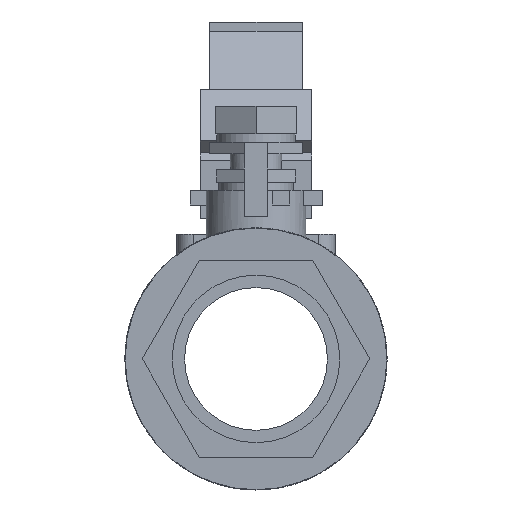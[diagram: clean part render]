
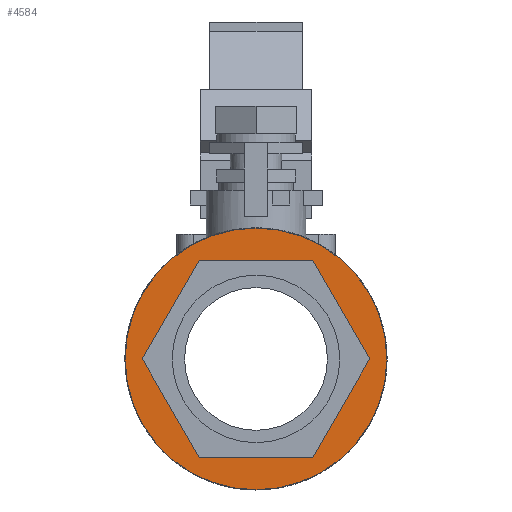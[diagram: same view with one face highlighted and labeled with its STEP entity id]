
A CAD part, left-side view. The second image highlights one B-rep face of the part: STEP entity #4584.
In plain terms, the highlighted planar face has unit normal (-1, 0, 0).
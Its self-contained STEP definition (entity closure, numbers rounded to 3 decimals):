
#4029 = EDGE_CURVE('',#4030,#4032,#4034,.T.);
#4030 = VERTEX_POINT('',#4031);
#4031 = CARTESIAN_POINT('',(0.655,-0.597,1.034));
#4032 = VERTEX_POINT('',#4033);
#4033 = CARTESIAN_POINT('',(0.655,-1.194,0.));
#4034 = SURFACE_CURVE('',#4035,(#4039,#4051),.PCURVE_S1.);
#4035 = LINE('',#4036,#4037);
#4036 = CARTESIAN_POINT('',(0.655,-0.895,0.517));
#4037 = VECTOR('',#4038,1.);
#4038 = DIRECTION('',(0.,-0.5,-0.866));
#4039 = PCURVE('',#4040,#4045);
#4040 = PLANE('',#4041);
#4041 = AXIS2_PLACEMENT_3D('',#4042,#4043,#4044);
#4042 = CARTESIAN_POINT('',(0.,-0.895,0.517));
#4043 = DIRECTION('',(0.,-0.866,0.5));
#4044 = DIRECTION('',(0.,-0.5,-0.866));
#4045 = DEFINITIONAL_REPRESENTATION('',(#4046),#4050);
#4046 = LINE('',#4047,#4048);
#4047 = CARTESIAN_POINT('',(0.,0.655));
#4048 = VECTOR('',#4049,1.);
#4049 = DIRECTION('',(1.,0.));
#4050 = ( GEOMETRIC_REPRESENTATION_CONTEXT(2) 
PARAMETRIC_REPRESENTATION_CONTEXT() REPRESENTATION_CONTEXT('2D SPACE',''
  ) );
#4051 = PCURVE('',#4052,#4057);
#4052 = PLANE('',#4053);
#4053 = AXIS2_PLACEMENT_3D('',#4054,#4055,#4056);
#4054 = CARTESIAN_POINT('',(0.655,0.,
    0.));
#4055 = DIRECTION('',(-1.,0.,0.));
#4056 = DIRECTION('',(0.,0.,1.));
#4057 = DEFINITIONAL_REPRESENTATION('',(#4058),#4062);
#4058 = LINE('',#4059,#4060);
#4059 = CARTESIAN_POINT('',(0.517,-0.895));
#4060 = VECTOR('',#4061,1.);
#4061 = DIRECTION('',(-0.866,-0.5));
#4062 = ( GEOMETRIC_REPRESENTATION_CONTEXT(2) 
PARAMETRIC_REPRESENTATION_CONTEXT() REPRESENTATION_CONTEXT('2D SPACE',''
  ) );
#4080 = PLANE('',#4081);
#4081 = AXIS2_PLACEMENT_3D('',#4082,#4083,#4084);
#4082 = CARTESIAN_POINT('',(0.,0.,1.034));
#4083 = DIRECTION('',(0.,0.,1.));
#4084 = DIRECTION('',(0.,-1.,0.));
#4129 = PLANE('',#4130);
#4130 = AXIS2_PLACEMENT_3D('',#4131,#4132,#4133);
#4131 = CARTESIAN_POINT('',(0.,-0.895,-0.517));
#4132 = DIRECTION('',(0.,-0.866,-0.5));
#4133 = DIRECTION('',(0.,0.5,-0.866));
#4144 = EDGE_CURVE('',#4145,#4030,#4147,.T.);
#4145 = VERTEX_POINT('',#4146);
#4146 = CARTESIAN_POINT('',(0.655,0.597,1.034));
#4147 = SURFACE_CURVE('',#4148,(#4152,#4159),.PCURVE_S1.);
#4148 = LINE('',#4149,#4150);
#4149 = CARTESIAN_POINT('',(0.655,0.,1.034));
#4150 = VECTOR('',#4151,1.);
#4151 = DIRECTION('',(0.,-1.,0.));
#4152 = PCURVE('',#4080,#4153);
#4153 = DEFINITIONAL_REPRESENTATION('',(#4154),#4158);
#4154 = LINE('',#4155,#4156);
#4155 = CARTESIAN_POINT('',(0.,0.655));
#4156 = VECTOR('',#4157,1.);
#4157 = DIRECTION('',(1.,0.));
#4158 = ( GEOMETRIC_REPRESENTATION_CONTEXT(2) 
PARAMETRIC_REPRESENTATION_CONTEXT() REPRESENTATION_CONTEXT('2D SPACE',''
  ) );
#4159 = PCURVE('',#4052,#4160);
#4160 = DEFINITIONAL_REPRESENTATION('',(#4161),#4165);
#4161 = LINE('',#4162,#4163);
#4162 = CARTESIAN_POINT('',(1.034,0.));
#4163 = VECTOR('',#4164,1.);
#4164 = DIRECTION('',(0.,-1.));
#4165 = ( GEOMETRIC_REPRESENTATION_CONTEXT(2) 
PARAMETRIC_REPRESENTATION_CONTEXT() REPRESENTATION_CONTEXT('2D SPACE',''
  ) );
#4183 = PLANE('',#4184);
#4184 = AXIS2_PLACEMENT_3D('',#4185,#4186,#4187);
#4185 = CARTESIAN_POINT('',(0.,0.895,0.517));
#4186 = DIRECTION('',(0.,0.866,0.5));
#4187 = DIRECTION('',(0.,-0.5,0.866));
#4220 = EDGE_CURVE('',#4221,#4145,#4223,.T.);
#4221 = VERTEX_POINT('',#4222);
#4222 = CARTESIAN_POINT('',(0.655,1.194,0.));
#4223 = SURFACE_CURVE('',#4224,(#4228,#4235),.PCURVE_S1.);
#4224 = LINE('',#4225,#4226);
#4225 = CARTESIAN_POINT('',(0.655,0.895,0.517));
#4226 = VECTOR('',#4227,1.);
#4227 = DIRECTION('',(0.,-0.5,0.866));
#4228 = PCURVE('',#4183,#4229);
#4229 = DEFINITIONAL_REPRESENTATION('',(#4230),#4234);
#4230 = LINE('',#4231,#4232);
#4231 = CARTESIAN_POINT('',(0.,0.655));
#4232 = VECTOR('',#4233,1.);
#4233 = DIRECTION('',(1.,0.));
#4234 = ( GEOMETRIC_REPRESENTATION_CONTEXT(2) 
PARAMETRIC_REPRESENTATION_CONTEXT() REPRESENTATION_CONTEXT('2D SPACE',''
  ) );
#4235 = PCURVE('',#4052,#4236);
#4236 = DEFINITIONAL_REPRESENTATION('',(#4237),#4241);
#4237 = LINE('',#4238,#4239);
#4238 = CARTESIAN_POINT('',(0.517,0.895));
#4239 = VECTOR('',#4240,1.);
#4240 = DIRECTION('',(0.866,-0.5));
#4241 = ( GEOMETRIC_REPRESENTATION_CONTEXT(2) 
PARAMETRIC_REPRESENTATION_CONTEXT() REPRESENTATION_CONTEXT('2D SPACE',''
  ) );
#4259 = PLANE('',#4260);
#4260 = AXIS2_PLACEMENT_3D('',#4261,#4262,#4263);
#4261 = CARTESIAN_POINT('',(0.,0.895,-0.517));
#4262 = DIRECTION('',(0.,0.866,-0.5));
#4263 = DIRECTION('',(0.,0.5,0.866));
#4296 = EDGE_CURVE('',#4297,#4221,#4299,.T.);
#4297 = VERTEX_POINT('',#4298);
#4298 = CARTESIAN_POINT('',(0.655,0.597,-1.034));
#4299 = SURFACE_CURVE('',#4300,(#4304,#4311),.PCURVE_S1.);
#4300 = LINE('',#4301,#4302);
#4301 = CARTESIAN_POINT('',(0.655,0.895,-0.517));
#4302 = VECTOR('',#4303,1.);
#4303 = DIRECTION('',(0.,0.5,0.866));
#4304 = PCURVE('',#4259,#4305);
#4305 = DEFINITIONAL_REPRESENTATION('',(#4306),#4310);
#4306 = LINE('',#4307,#4308);
#4307 = CARTESIAN_POINT('',(0.,0.655));
#4308 = VECTOR('',#4309,1.);
#4309 = DIRECTION('',(1.,0.));
#4310 = ( GEOMETRIC_REPRESENTATION_CONTEXT(2) 
PARAMETRIC_REPRESENTATION_CONTEXT() REPRESENTATION_CONTEXT('2D SPACE',''
  ) );
#4311 = PCURVE('',#4052,#4312);
#4312 = DEFINITIONAL_REPRESENTATION('',(#4313),#4317);
#4313 = LINE('',#4314,#4315);
#4314 = CARTESIAN_POINT('',(-0.517,0.895));
#4315 = VECTOR('',#4316,1.);
#4316 = DIRECTION('',(0.866,0.5));
#4317 = ( GEOMETRIC_REPRESENTATION_CONTEXT(2) 
PARAMETRIC_REPRESENTATION_CONTEXT() REPRESENTATION_CONTEXT('2D SPACE',''
  ) );
#4335 = PLANE('',#4336);
#4336 = AXIS2_PLACEMENT_3D('',#4337,#4338,#4339);
#4337 = CARTESIAN_POINT('',(0.,0.,-1.034));
#4338 = DIRECTION('',(0.,0.,-1.));
#4339 = DIRECTION('',(0.,1.,0.));
#4372 = EDGE_CURVE('',#4373,#4297,#4375,.T.);
#4373 = VERTEX_POINT('',#4374);
#4374 = CARTESIAN_POINT('',(0.655,-0.597,-1.034));
#4375 = SURFACE_CURVE('',#4376,(#4380,#4387),.PCURVE_S1.);
#4376 = LINE('',#4377,#4378);
#4377 = CARTESIAN_POINT('',(0.655,0.,-1.034));
#4378 = VECTOR('',#4379,1.);
#4379 = DIRECTION('',(0.,1.,0.));
#4380 = PCURVE('',#4335,#4381);
#4381 = DEFINITIONAL_REPRESENTATION('',(#4382),#4386);
#4382 = LINE('',#4383,#4384);
#4383 = CARTESIAN_POINT('',(0.,0.655));
#4384 = VECTOR('',#4385,1.);
#4385 = DIRECTION('',(1.,0.));
#4386 = ( GEOMETRIC_REPRESENTATION_CONTEXT(2) 
PARAMETRIC_REPRESENTATION_CONTEXT() REPRESENTATION_CONTEXT('2D SPACE',''
  ) );
#4387 = PCURVE('',#4052,#4388);
#4388 = DEFINITIONAL_REPRESENTATION('',(#4389),#4393);
#4389 = LINE('',#4390,#4391);
#4390 = CARTESIAN_POINT('',(-1.034,0.));
#4391 = VECTOR('',#4392,1.);
#4392 = DIRECTION('',(0.,1.));
#4393 = ( GEOMETRIC_REPRESENTATION_CONTEXT(2) 
PARAMETRIC_REPRESENTATION_CONTEXT() REPRESENTATION_CONTEXT('2D SPACE',''
  ) );
#4443 = EDGE_CURVE('',#4032,#4373,#4444,.T.);
#4444 = SURFACE_CURVE('',#4445,(#4449,#4456),.PCURVE_S1.);
#4445 = LINE('',#4446,#4447);
#4446 = CARTESIAN_POINT('',(0.655,-0.895,-0.517));
#4447 = VECTOR('',#4448,1.);
#4448 = DIRECTION('',(0.,0.5,-0.866));
#4449 = PCURVE('',#4129,#4450);
#4450 = DEFINITIONAL_REPRESENTATION('',(#4451),#4455);
#4451 = LINE('',#4452,#4453);
#4452 = CARTESIAN_POINT('',(0.,0.655));
#4453 = VECTOR('',#4454,1.);
#4454 = DIRECTION('',(1.,0.));
#4455 = ( GEOMETRIC_REPRESENTATION_CONTEXT(2) 
PARAMETRIC_REPRESENTATION_CONTEXT() REPRESENTATION_CONTEXT('2D SPACE',''
  ) );
#4456 = PCURVE('',#4052,#4457);
#4457 = DEFINITIONAL_REPRESENTATION('',(#4458),#4462);
#4458 = LINE('',#4459,#4460);
#4459 = CARTESIAN_POINT('',(-0.517,-0.895));
#4460 = VECTOR('',#4461,1.);
#4461 = DIRECTION('',(-0.866,0.5));
#4462 = ( GEOMETRIC_REPRESENTATION_CONTEXT(2) 
PARAMETRIC_REPRESENTATION_CONTEXT() REPRESENTATION_CONTEXT('2D SPACE',''
  ) );
#4512 = CYLINDRICAL_SURFACE('',#4513,1.375);
#4513 = AXIS2_PLACEMENT_3D('',#4514,#4515,#4516);
#4514 = CARTESIAN_POINT('',(0.655,0.,
    0.));
#4515 = DIRECTION('',(1.,0.,0.));
#4516 = DIRECTION('',(0.,-1.,0.));
#4541 = VERTEX_POINT('',#4542);
#4542 = CARTESIAN_POINT('',(0.655,-1.375,0.));
#4562 = EDGE_CURVE('',#4541,#4541,#4563,.T.);
#4563 = SURFACE_CURVE('',#4564,(#4569,#4576),.PCURVE_S1.);
#4564 = CIRCLE('',#4565,1.375);
#4565 = AXIS2_PLACEMENT_3D('',#4566,#4567,#4568);
#4566 = CARTESIAN_POINT('',(0.655,0.,
    0.));
#4567 = DIRECTION('',(-1.,0.,0.));
#4568 = DIRECTION('',(0.,-1.,0.));
#4569 = PCURVE('',#4512,#4570);
#4570 = DEFINITIONAL_REPRESENTATION('',(#4571),#4575);
#4571 = LINE('',#4572,#4573);
#4572 = CARTESIAN_POINT('',(6.283,0.));
#4573 = VECTOR('',#4574,1.);
#4574 = DIRECTION('',(-1.,0.));
#4575 = ( GEOMETRIC_REPRESENTATION_CONTEXT(2) 
PARAMETRIC_REPRESENTATION_CONTEXT() REPRESENTATION_CONTEXT('2D SPACE',''
  ) );
#4576 = PCURVE('',#4052,#4577);
#4577 = DEFINITIONAL_REPRESENTATION('',(#4578),#4582);
#4578 = CIRCLE('',#4579,1.375);
#4579 = AXIS2_PLACEMENT_2D('',#4580,#4581);
#4580 = CARTESIAN_POINT('',(0.,0.));
#4581 = DIRECTION('',(0.,-1.));
#4582 = ( GEOMETRIC_REPRESENTATION_CONTEXT(2) 
PARAMETRIC_REPRESENTATION_CONTEXT() REPRESENTATION_CONTEXT('2D SPACE',''
  ) );
#4584 = ADVANCED_FACE('',(#4585,#4593),#4052,.T.);
#4585 = FACE_BOUND('',#4586,.T.);
#4586 = EDGE_LOOP('',(#4587,#4588,#4589,#4590,#4591,#4592));
#4587 = ORIENTED_EDGE('',*,*,#4029,.T.);
#4588 = ORIENTED_EDGE('',*,*,#4443,.T.);
#4589 = ORIENTED_EDGE('',*,*,#4372,.T.);
#4590 = ORIENTED_EDGE('',*,*,#4296,.T.);
#4591 = ORIENTED_EDGE('',*,*,#4220,.T.);
#4592 = ORIENTED_EDGE('',*,*,#4144,.T.);
#4593 = FACE_BOUND('',#4594,.T.);
#4594 = EDGE_LOOP('',(#4595));
#4595 = ORIENTED_EDGE('',*,*,#4562,.T.);
